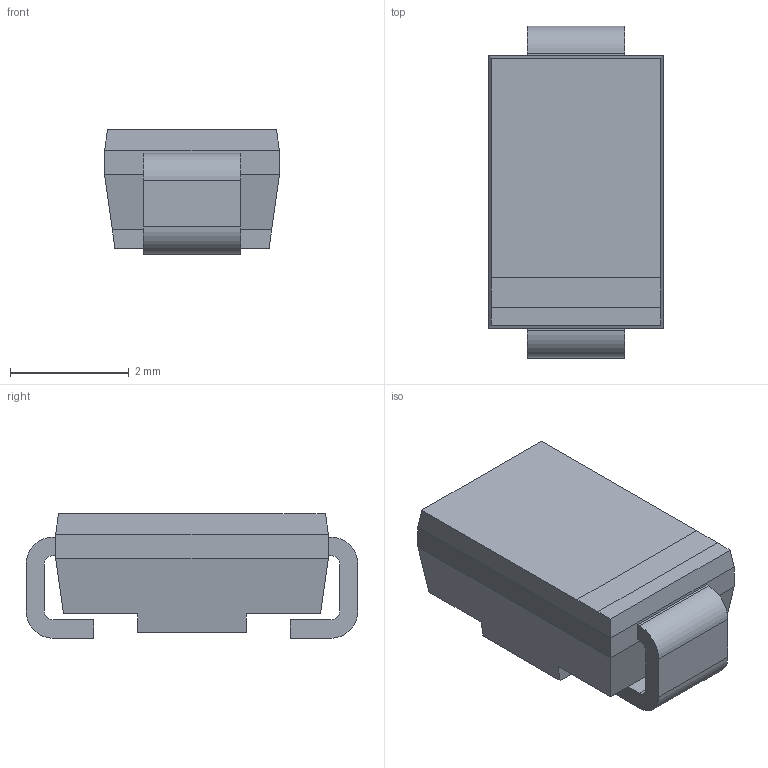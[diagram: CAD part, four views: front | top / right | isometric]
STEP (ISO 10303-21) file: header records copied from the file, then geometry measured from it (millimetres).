
FILE_DESCRIPTION(/* description */ (''),/* implementation_level */ '2;1');
FILE_NAME(/* name */ 'C:/Users/Nicholas/Downloads/SMA v5.step',/* time_stamp */ '2021-06-05T13:55:54-07:00',/* author */ (''),/* organization */ (''),/* preprocessor_version */ 'ST-DEVELOPER v18.1',/* originating_system */ 'Autodesk Translation Framework v10.9.0.1377',/* authorisation */ '');
FILE_SCHEMA (('AUTOMOTIVE_DESIGN { 1 0 10303 214 3 1 1 }'));
Length unit declared in the file: millimetre
Products named in the file (1): SMA
Bounding box: 2.95 x 5.6 x 2.1 mm (x, y, z)
Volume: 25.9 mm3; surface area: 71.6 mm2
Topology: 1 solids, 1 shells, 46 faces, 118 edges, 76 vertices
Faces by surface type: plane 38, cylinder 8
Entity records: 1463 total; most frequent: CARTESIAN_POINT 241, ORIENTED_EDGE 236, DIRECTION 228, EDGE_CURVE 118, LINE 102, VECTOR 102, VERTEX_POINT 76, AXIS2_PLACEMENT_3D 63
